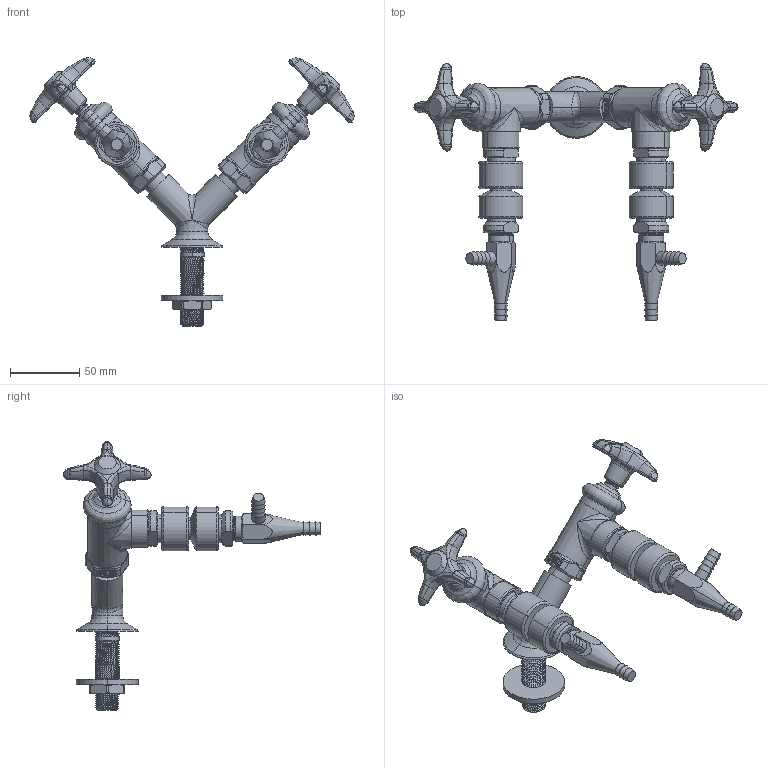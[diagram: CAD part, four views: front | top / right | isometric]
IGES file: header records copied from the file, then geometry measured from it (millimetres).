
Start section:  PTC IGES file: LWV2-C63-65.igs
Global section: file name: LWV2-C63-65.igs; native system: Creo Parametric by PTC Inc.; preprocessor: 2014500; author: usch_engrender; organization: Unknown; date: 20151124.091653; units: inch
Bounding box: 233.61 x 185.63 x 193.73 mm (x, y, z)
Volume: 295246 mm3; surface area: 71662.3 mm2
Topology: 2 solids, 8 shells, 1117 faces, 2606 edges, 1553 vertices
Faces by surface type: bspline 597, revolution 520
